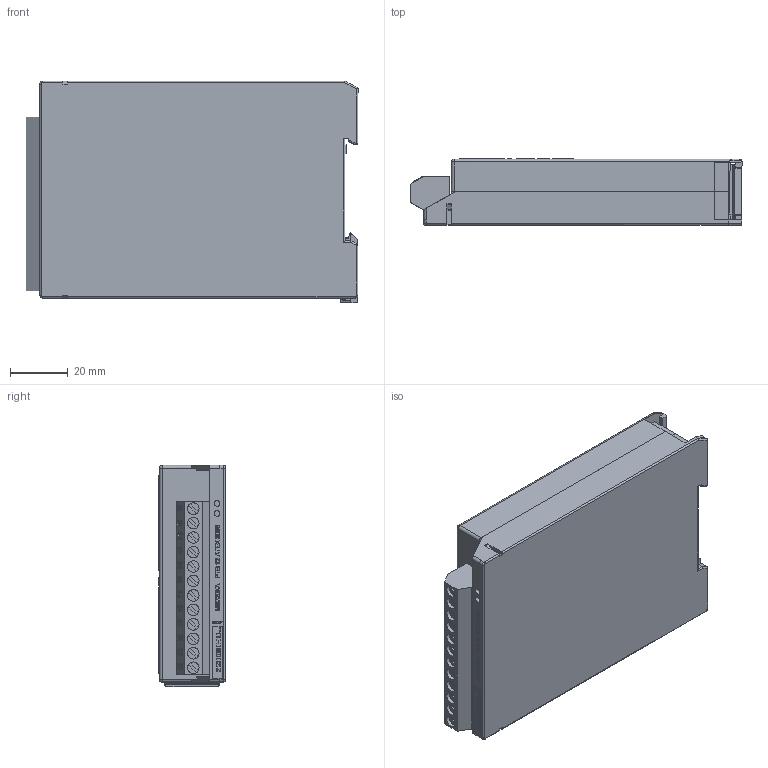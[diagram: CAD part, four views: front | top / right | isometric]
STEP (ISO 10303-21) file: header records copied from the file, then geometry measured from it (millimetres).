
FILE_DESCRIPTION (( 'STEP AP214' ), '1' );
FILE_NAME ('1058 1940_MS_2U_3D.STEP', '2014-05-26T13:12:58', ( '' ), ( '' ), 'SwSTEP 2.0', 'SolidWorks 2014', '' );
FILE_SCHEMA (( 'AUTOMOTIVE_DESIGN' ));
Length unit declared in the file: millimetre
Products named in the file (10): K-Riegel; 1058 1221 MS_2U_Klemm_3D; 31147112; 1058 1255_MS220KA_2U_3D; pan head cross recess screw_din_ISO 7045 - M3 x 4 - Z --- 4N; Kopie von K-Leiterpklatte 60 lang^1058 1940_MS_2U_3D; 1045 1920 K-Deckel; 1058 1293 MS_KA schmal_3D; 1075 192x_MS-UT_3D; 1058 1940_MS_2U_3D
Assembly tree (9 placements, depth 2):
  1058 1940_MS_2U_3D
    1075 192x_MS-UT_3D
    1058 1293 MS_KA schmal_3D
    1045 1920 K-Deckel
    Kopie von K-Leiterpklatte 60 lang^1058 1940_MS_2U_3D
    pan head cross recess screw_din_ISO 7045 - M3 x 4 - Z --- 4N
    1058 1255_MS220KA_2U_3D
    31147112
    1058 1221 MS_2U_Klemm_3D
    K-Riegel
Bounding box: 114.78 x 22.94 x 76.65 mm (x, y, z)
Volume: 51393.5 mm3; surface area: 64872 mm2
Topology: 330 solids, 330 shells, 4515 faces, 11187 edges, 7382 vertices
Faces by surface type: plane 3618, bspline 649, cylinder 181, cone 25, sphere 22, torus 20
Full cylindrical faces by diameter (mm): 1 x12, 1.5 x7, 2 x2, 2.8 x2, 3 x12, 3.1 x12, 3.6 x1, 4 x12, 4.2 x1, 5.6 x1, 6 x1, 6.8 x1, 7 x1, 7.2 x1, 9 x1
Entity records: 152025 total; most frequent: CARTESIAN_POINT 43131, ORIENTED_EDGE 22088, DIRECTION 17798, EDGE_CURVE 11044, VECTOR 9266, LINE 9266, VERTEX_POINT 7357, EDGE_LOOP 4893
